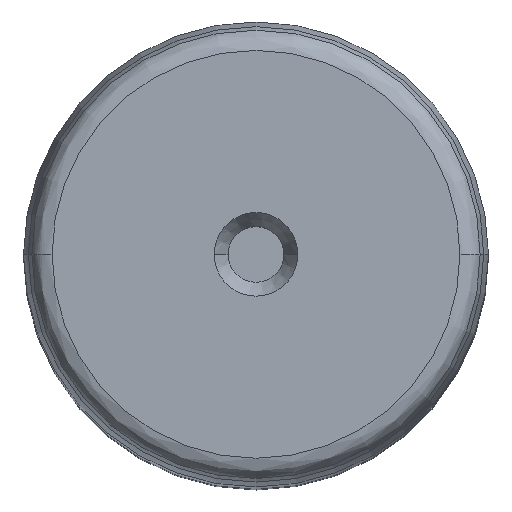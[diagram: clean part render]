
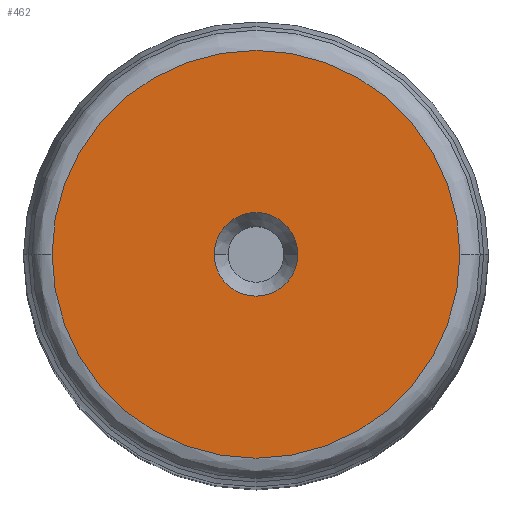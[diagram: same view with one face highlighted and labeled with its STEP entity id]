
A CAD part, top view. The second image highlights one B-rep face of the part: STEP entity #462.
In plain terms, the highlighted planar face has unit normal (0, 0, 1).
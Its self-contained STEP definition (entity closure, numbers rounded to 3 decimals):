
#97=VERTEX_POINT(' ',#98);
#98=CARTESIAN_POINT('',(-9.,0.,400.));
#99=VERTEX_POINT(' ',#100);
#100=CARTESIAN_POINT('',(9.,0.,400.));
#101=VERTEX_POINT(' ',#102);
#102=CARTESIAN_POINT('',(-43.868,0.,400.));
#103=VERTEX_POINT(' ',#104);
#104=CARTESIAN_POINT('',(43.868,0.,400.));
#180=CIRCLE('',#181,9.);
#181=AXIS2_PLACEMENT_3D('',#182,#183,#184);
#182=CARTESIAN_POINT('',(0.,0.,400.));
#183=DIRECTION('',(0.,0.,-1.));
#184=DIRECTION('',(0.,1.,0.));
#185=EDGE_CURVE(' ',#99,#97,#180,.T.);
#191=CIRCLE('',#192,9.);
#192=AXIS2_PLACEMENT_3D('',#193,#194,#195);
#193=CARTESIAN_POINT('',(0.,0.,400.));
#194=DIRECTION('',(0.,0.,-1.));
#195=DIRECTION('',(0.,-1.,0.));
#196=EDGE_CURVE(' ',#97,#99,#191,.T.);
#197=CIRCLE('',#198,43.868);
#198=AXIS2_PLACEMENT_3D('',#199,#200,#201);
#199=CARTESIAN_POINT('',(0.,0.,400.));
#200=DIRECTION('',(0.,0.,-1.));
#201=DIRECTION('',(0.,1.,0.));
#202=EDGE_CURVE(' ',#103,#101,#197,.T.);
#203=CIRCLE('',#204,43.868);
#204=AXIS2_PLACEMENT_3D('',#205,#206,#207);
#205=CARTESIAN_POINT('',(0.,0.,400.));
#206=DIRECTION('',(0.,0.,-1.));
#207=DIRECTION('',(0.,-1.,0.));
#208=EDGE_CURVE(' ',#101,#103,#203,.T.);
#449=ORIENTED_EDGE('',*,*,#202,.F.);
#450=ORIENTED_EDGE('',*,*,#208,.F.);
#451=EDGE_LOOP('',(#449,#450));
#452=FACE_OUTER_BOUND('',#451,.T.);
#453=ORIENTED_EDGE('',*,*,#196,.T.);
#454=ORIENTED_EDGE('',*,*,#185,.T.);
#455=EDGE_LOOP('',(#453,#454));
#456=FACE_BOUND('',#455,.T.);
#457=PLANE('',#458);
#458=AXIS2_PLACEMENT_3D('',#459,#460,#461);
#459=CARTESIAN_POINT('',(0.,0.,400.));
#460=DIRECTION('',(0.,0.,1.));
#461=DIRECTION('',(0.,1.,0.));
#462=ADVANCED_FACE('',(#452,#456),#457,.T.);
